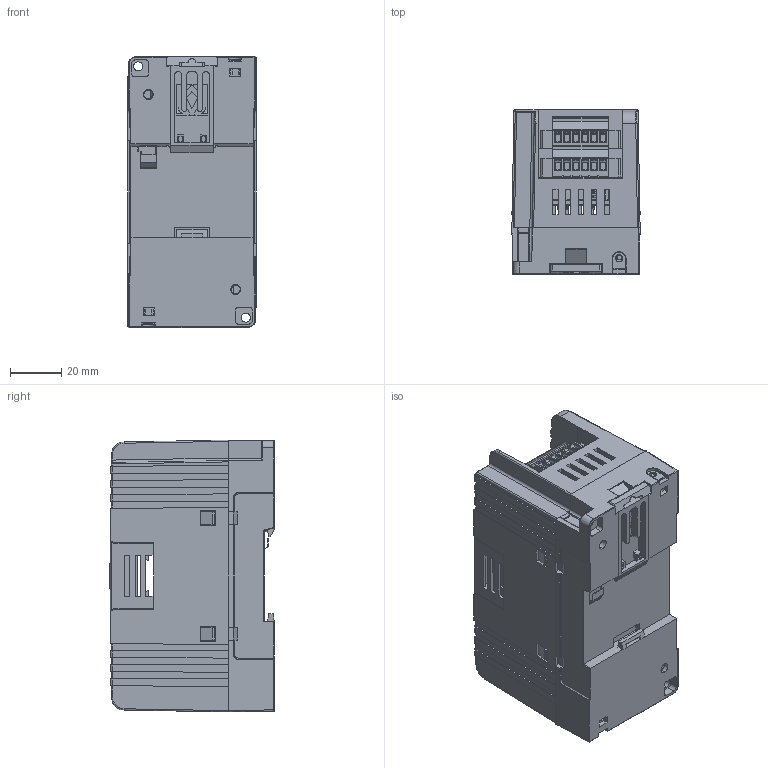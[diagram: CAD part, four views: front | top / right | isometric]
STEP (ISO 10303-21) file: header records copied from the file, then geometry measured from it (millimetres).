
FILE_DESCRIPTION((''),'2;1');
FILE_NAME('SPC-EN-20240521','2024-05-20T09:58:27',('Administrator'),(''),'CREO PARAMETRIC BY PTC INC, 2023073','CREO PARAMETRIC BY PTC INC, 2023073','');
FILE_SCHEMA(('CONFIG_CONTROL_DESIGN','SHAPE_APPEARANCE_LAYERS_GROUPS'));
Products named in the file (1): SPC-EN-20240521
Bounding box: 50 x 64.2 x 106 mm (x, y, z)
Surface area: 136540.3 mm2 (no closed solid volume)
Topology: 0 solids, 29 shells, 7776 faces, 21419 edges, 14163 vertices
Faces by surface type: plane 5920, cylinder 1522, cone 228, extrusion 65, torus 26, bspline 11, sphere 4
Entity records: 300824 total; most frequent: CARTESIAN_POINT 50168, ORIENTED_EDGE 42838, DIRECTION 38448, EDGE_CURVE 21419, VECTOR 16768, LINE 16703, VERTEX_POINT 14163, AXIS2_PLACEMENT_3D 10840
